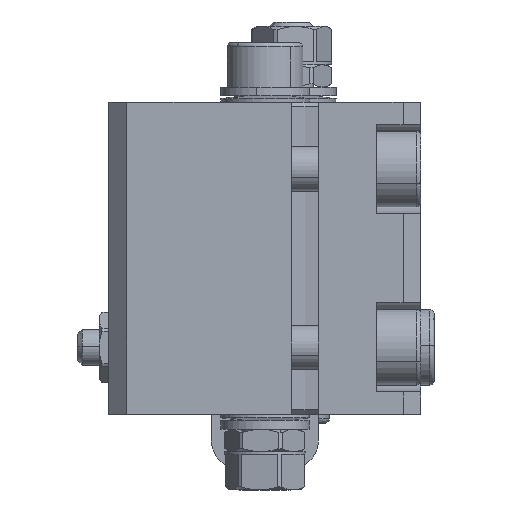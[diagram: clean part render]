
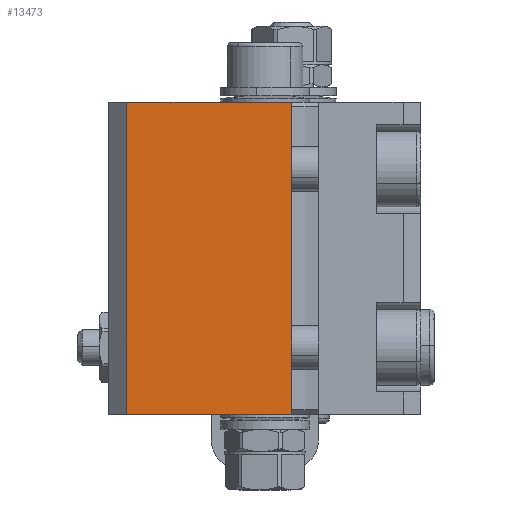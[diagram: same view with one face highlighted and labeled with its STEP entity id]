
A CAD part, front view. The second image highlights one B-rep face of the part: STEP entity #13473.
In plain terms, the highlighted planar face has unit normal (0, -1, 0).
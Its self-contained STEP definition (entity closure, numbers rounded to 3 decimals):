
#189 = LINE ( 'NONE', #17398, #3633 ) ;
#369 = VERTEX_POINT ( 'NONE', #3315 ) ;
#376 = EDGE_CURVE ( 'NONE', #369, #14350, #189, .T. ) ;
#653 = CARTESIAN_POINT ( 'NONE',  ( -20., -18.5, 17.5 ) ) ;
#1444 = EDGE_CURVE ( 'NONE', #3437, #11052, #16525, .T. ) ;
#1774 = ORIENTED_EDGE ( 'NONE', *, *, #6508, .T. ) ;
#2469 = DIRECTION ( 'NONE',  ( 0., 0., -1. ) ) ;
#2921 = ORIENTED_EDGE ( 'NONE', *, *, #1444, .F. ) ;
#2953 = DIRECTION ( 'NONE',  ( 0., 1., 0. ) ) ;
#3315 = CARTESIAN_POINT ( 'NONE',  ( -20., -18.5, -17.5 ) ) ;
#3437 = VERTEX_POINT ( 'NONE', #653 ) ;
#3633 = VECTOR ( 'NONE', #4362, 1000. ) ;
#4362 = DIRECTION ( 'NONE',  ( 1., 0., 0. ) ) ;
#4370 = CARTESIAN_POINT ( 'NONE',  ( -22., -18.5, 17.5 ) ) ;
#5113 = ORIENTED_EDGE ( 'NONE', *, *, #376, .T. ) ;
#6508 = EDGE_CURVE ( 'NONE', #3437, #369, #10074, .T. ) ;
#7940 = DIRECTION ( 'NONE',  ( 1., 0., 0. ) ) ;
#8381 = VECTOR ( 'NONE', #7940, 1000. ) ;
#8519 = CARTESIAN_POINT ( 'NONE',  ( -1.5, -18.5, -17.5 ) ) ;
#8638 = EDGE_LOOP ( 'NONE', ( #1774, #5113, #12053, #2921 ) ) ;
#9251 = FACE_OUTER_BOUND ( 'NONE', #8638, .T. ) ;
#10074 = LINE ( 'NONE', #16920, #13325 ) ;
#10178 = PLANE ( 'NONE',  #14829 ) ;
#10310 = CARTESIAN_POINT ( 'NONE',  ( -1.5, -18.5, 17.5 ) ) ;
#11052 = VERTEX_POINT ( 'NONE', #10310 ) ;
#12053 = ORIENTED_EDGE ( 'NONE', *, *, #15244, .T. ) ;
#13126 = DIRECTION ( 'NONE',  ( 0., 0., 1. ) ) ;
#13325 = VECTOR ( 'NONE', #2469, 1000. ) ;
#13473 = ADVANCED_FACE ( 'NONE', ( #9251 ), #10178, .F. ) ;
#14350 = VERTEX_POINT ( 'NONE', #8519 ) ;
#14691 = CARTESIAN_POINT ( 'NONE',  ( -1.5, -18.5, 17.5 ) ) ;
#14829 = AXIS2_PLACEMENT_3D ( 'NONE', #4370, #2953, #13126 ) ;
#15244 = EDGE_CURVE ( 'NONE', #14350, #11052, #17109, .T. ) ;
#16139 = DIRECTION ( 'NONE',  ( 0., 0., 1. ) ) ;
#16525 = LINE ( 'NONE', #18057, #8381 ) ;
#16651 = VECTOR ( 'NONE', #16139, 1000. ) ;
#16920 = CARTESIAN_POINT ( 'NONE',  ( -20., -18.5, 17.5 ) ) ;
#17109 = LINE ( 'NONE', #14691, #16651 ) ;
#17398 = CARTESIAN_POINT ( 'NONE',  ( 0., -18.5, -17.5 ) ) ;
#18057 = CARTESIAN_POINT ( 'NONE',  ( 0., -18.5, 17.5 ) ) ;
